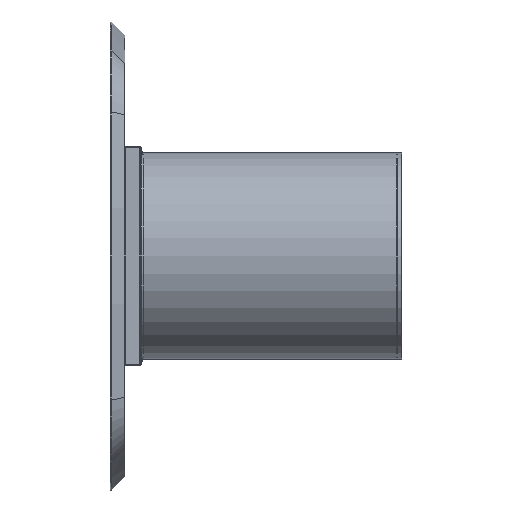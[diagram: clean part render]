
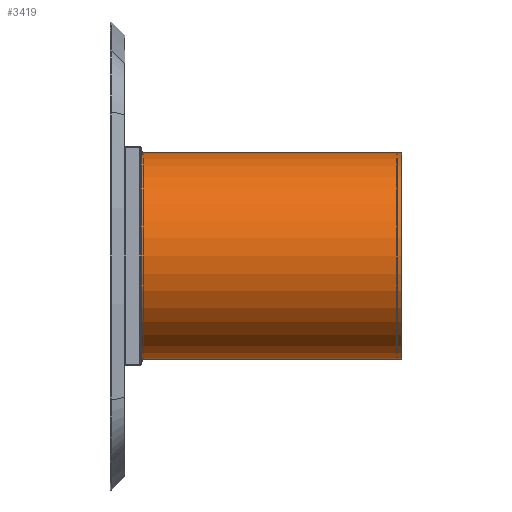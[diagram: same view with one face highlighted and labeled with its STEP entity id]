
A CAD part, left-side view. The second image highlights one B-rep face of the part: STEP entity #3419.
In plain terms, the highlighted cylindrical face has radius 265 mm (diameter 530 mm), a partial arc.
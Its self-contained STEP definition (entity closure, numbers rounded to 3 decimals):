
#144 = ORIENTED_EDGE ( 'NONE', *, *, #3610, .T. ) ;
#495 = DIRECTION ( 'NONE',  ( 0., 0., 1. ) ) ;
#711 = CARTESIAN_POINT ( 'NONE',  ( 0., 0., 265. ) ) ;
#944 = EDGE_CURVE ( 'NONE', #5071, #1090, #2043, .T. ) ;
#1015 = CARTESIAN_POINT ( 'NONE',  ( 0., 670., 265. ) ) ;
#1090 = VERTEX_POINT ( 'NONE', #2221 ) ;
#2043 = LINE ( 'NONE', #4695, #13109 ) ;
#2221 = CARTESIAN_POINT ( 'NONE',  ( 0., 0., -265. ) ) ;
#2250 = AXIS2_PLACEMENT_3D ( 'NONE', #5496, #10619, #7031 ) ;
#3026 = EDGE_CURVE ( 'NONE', #7509, #10647, #11431, .T. ) ;
#3419 = ADVANCED_FACE ( 'NONE', ( #8283 ), #16196, .T. ) ;
#3610 = EDGE_CURVE ( 'NONE', #1090, #10647, #15873, .T. ) ;
#4132 = AXIS2_PLACEMENT_3D ( 'NONE', #4493, #4658, #9726 ) ;
#4493 = CARTESIAN_POINT ( 'NONE',  ( 0., 670., 0. ) ) ;
#4658 = DIRECTION ( 'NONE',  ( 0., -1., 0. ) ) ;
#4695 = CARTESIAN_POINT ( 'NONE',  ( 0., 670., -265. ) ) ;
#5071 = VERTEX_POINT ( 'NONE', #7913 ) ;
#5139 = EDGE_LOOP ( 'NONE', ( #10354, #10079, #6470, #144 ) ) ;
#5496 = CARTESIAN_POINT ( 'NONE',  ( 0., 0., 0. ) ) ;
#5765 = VECTOR ( 'NONE', #6480, 1000. ) ;
#6470 = ORIENTED_EDGE ( 'NONE', *, *, #944, .T. ) ;
#6480 = DIRECTION ( 'NONE',  ( 0., -1., 0. ) ) ;
#7019 = DIRECTION ( 'NONE',  ( 0., -1., 0. ) ) ;
#7031 = DIRECTION ( 'NONE',  ( 0., 0., 1. ) ) ;
#7509 = VERTEX_POINT ( 'NONE', #9517 ) ;
#7913 = CARTESIAN_POINT ( 'NONE',  ( 0., 670., -265. ) ) ;
#8283 = FACE_OUTER_BOUND ( 'NONE', #5139, .T. ) ;
#8443 = EDGE_CURVE ( 'NONE', #5071, #7509, #15969, .T. ) ;
#8696 = DIRECTION ( 'NONE',  ( 0., 1., 0. ) ) ;
#9517 = CARTESIAN_POINT ( 'NONE',  ( 0., 670., 265. ) ) ;
#9726 = DIRECTION ( 'NONE',  ( 0., 0., -1. ) ) ;
#10079 = ORIENTED_EDGE ( 'NONE', *, *, #8443, .F. ) ;
#10354 = ORIENTED_EDGE ( 'NONE', *, *, #3026, .F. ) ;
#10619 = DIRECTION ( 'NONE',  ( 0., 1., 0. ) ) ;
#10647 = VERTEX_POINT ( 'NONE', #711 ) ;
#11431 = LINE ( 'NONE', #1015, #5765 ) ;
#12363 = CARTESIAN_POINT ( 'NONE',  ( 0., 670., 0. ) ) ;
#13109 = VECTOR ( 'NONE', #7019, 1000. ) ;
#14880 = AXIS2_PLACEMENT_3D ( 'NONE', #12363, #8696, #495 ) ;
#15873 = CIRCLE ( 'NONE', #2250, 265. ) ;
#15969 = CIRCLE ( 'NONE', #14880, 265. ) ;
#16196 = CYLINDRICAL_SURFACE ( 'NONE', #4132, 265. ) ;
